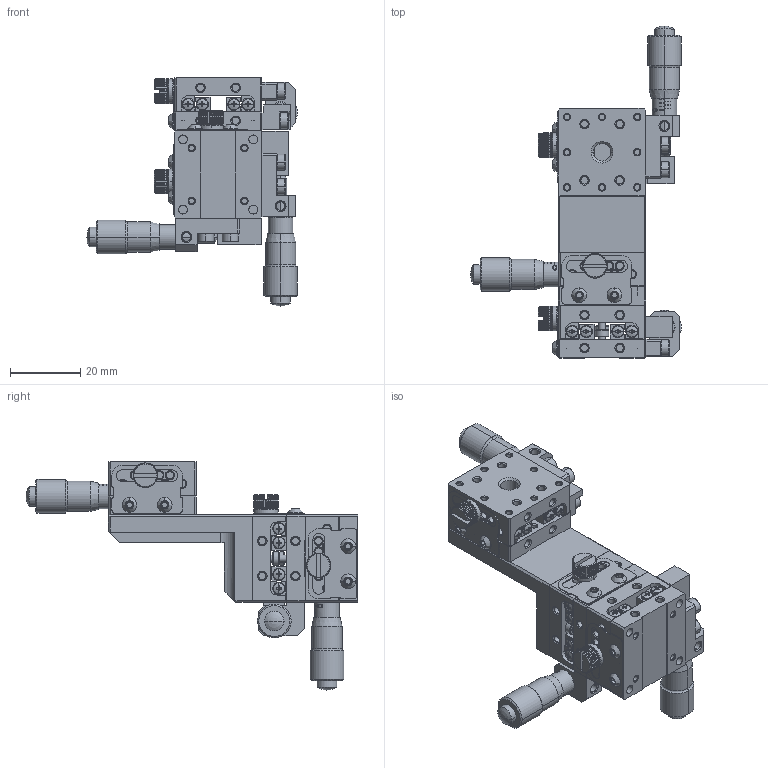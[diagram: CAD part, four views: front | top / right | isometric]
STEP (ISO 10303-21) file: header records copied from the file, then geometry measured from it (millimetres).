
FILE_DESCRIPTION((''),'2;1');
FILE_NAME('025-025-30-ST6-XYZ-R-STEEL_ASM','2022-11-15T14:54:55',('windows10'),(''),'CREO PARAMETRIC BY PTC INC, 2018260','CREO PARAMETRIC BY PTC INC, 2018260','');
FILE_SCHEMA(('CONFIG_CONTROL_DESIGN'));
Length unit declared in the file: millimetre
Products named in the file (20): BOTTOM-025-025-010-A; TOP-025-025-010-A; 1D6-2-ROUND-PLUS; STOPPER-PLATE-2530; 2D5-4-ROUND; WASHER-7-1D4; STOPPER-M2D5-8-8; PIN-BLOCK-013-008-006-A; HEAD-BLOCK-018-013-010-LA; MICRO-HEAD-6D5-SJP; 2D5-8; 2-5; 025-025-15-ST6-X-L-STEEL_ASM; 025-025-30-ST6-XY-L-STEEL_ASM; BRACKET-L-25-TAP; PIN-BLOCK-25-REVERSE-L; HEAD-BLOCK-018-013-010-RA; 025-025-15-ST6-X-L-RVS-STEEL_ASM; 025-025-15-ST6-Z-R-STEEL_ASM; 025-025-30-ST6-XYZ-R-STEEL_ASM
Assembly tree (51 placements, depth 4):
  025-025-30-ST6-XYZ-R-STEEL_ASM
    025-025-30-ST6-XY-L-STEEL_ASM
      025-025-15-ST6-X-L-STEEL_ASM  x2
        BOTTOM-025-025-010-A
        TOP-025-025-010-A
        1D6-2-ROUND-PLUS
        STOPPER-PLATE-2530
        2D5-4-ROUND
        WASHER-7-1D4
        STOPPER-M2D5-8-8
        PIN-BLOCK-013-008-006-A
        HEAD-BLOCK-018-013-010-LA
        MICRO-HEAD-6D5-SJP
        2D5-8
        2-5
    025-025-15-ST6-Z-R-STEEL_ASM
      BRACKET-L-25-TAP
      025-025-15-ST6-X-L-RVS-STEEL_ASM
        BOTTOM-025-025-010-A
        TOP-025-025-010-A
        1D6-2-ROUND-PLUS  x8
        STOPPER-PLATE-2530
        2D5-4-ROUND  x2
        WASHER-7-1D4
        STOPPER-M2D5-8-8
        PIN-BLOCK-25-REVERSE-L
        HEAD-BLOCK-018-013-010-RA
        MICRO-HEAD-6D5-SJP
        2D5-8  x3
Bounding box: 60.05 x 94.45 x 64.95 mm (x, y, z)
Volume: 39939.6 mm3; surface area: 38537 mm2
Topology: 73 solids, 76 shells, 3461 faces, 8187 edges, 5194 vertices
Faces by surface type: plane 1697, cylinder 950, cone 622, torus 120, sphere 60, bspline 12
Entity records: 29237 total; most frequent: CARTESIAN_POINT 5741, DIRECTION 5060, ORIENTED_EDGE 4600, EDGE_CURVE 2302, AXIS2_PLACEMENT_3D 1948, VERTEX_POINT 1472, VECTOR 1164, LINE 1164
